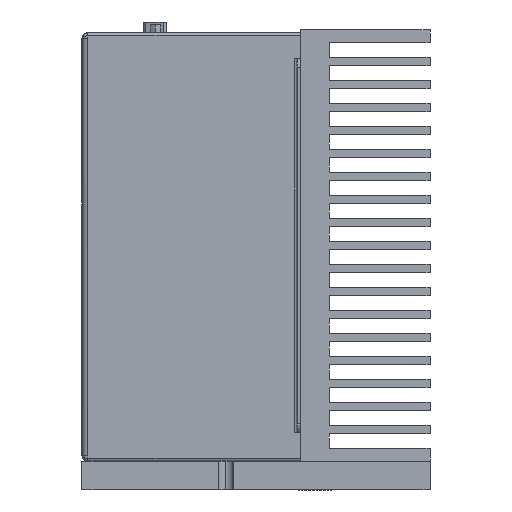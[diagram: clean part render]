
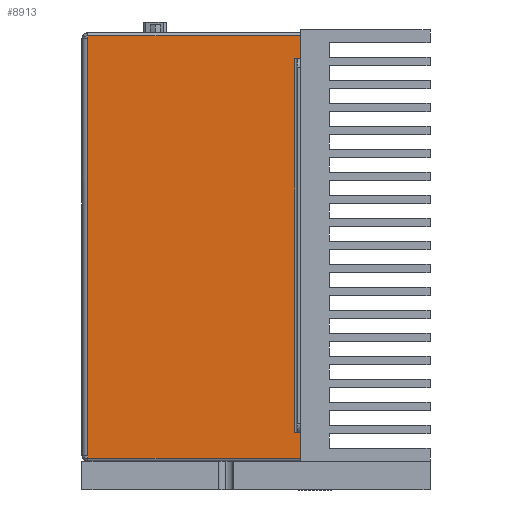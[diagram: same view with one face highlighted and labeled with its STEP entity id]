
A CAD part, left-side view. The second image highlights one B-rep face of the part: STEP entity #8913.
In plain terms, the highlighted planar face has unit normal (-1, 0, 0).
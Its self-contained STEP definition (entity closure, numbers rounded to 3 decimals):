
#729 = LINE ( 'NONE', #52767, #35011 ) ;
#755 = VERTEX_POINT ( 'NONE', #59858 ) ;
#823 = DIRECTION ( 'NONE',  ( 0., 0., -1. ) ) ;
#841 = ORIENTED_EDGE ( 'NONE', *, *, #39740, .F. ) ;
#950 = EDGE_CURVE ( 'NONE', #29595, #43330, #26371, .T. ) ;
#1066 = LINE ( 'NONE', #19080, #45404 ) ;
#1330 = CARTESIAN_POINT ( 'NONE',  ( -106.2, -76., -65. ) ) ;
#2018 = CARTESIAN_POINT ( 'NONE',  ( -106.2, -2., 72.501 ) ) ;
#2239 = ORIENTED_EDGE ( 'NONE', *, *, #23978, .F. ) ;
#3520 = EDGE_CURVE ( 'NONE', #11306, #41475, #3834, .T. ) ;
#3834 = LINE ( 'NONE', #44832, #56989 ) ;
#3872 = VERTEX_POINT ( 'NONE', #38018 ) ;
#4722 = VECTOR ( 'NONE', #22728, 1000. ) ;
#7450 = EDGE_CURVE ( 'NONE', #3872, #29595, #40467, .T. ) ;
#8183 = DIRECTION ( 'NONE',  ( 0., 1., 0. ) ) ;
#8913 = ADVANCED_FACE ( 'NONE', ( #60096 ), #11138, .F. ) ;
#9005 = CARTESIAN_POINT ( 'NONE',  ( -106.2, -75.833, -65. ) ) ;
#9162 = CARTESIAN_POINT ( 'NONE',  ( -106.2, -2., 72.043 ) ) ;
#10452 = ORIENTED_EDGE ( 'NONE', *, *, #28509, .F. ) ;
#10742 = EDGE_CURVE ( 'NONE', #755, #55673, #46896, .T. ) ;
#11138 = PLANE ( 'NONE',  #50887 ) ;
#11306 = VERTEX_POINT ( 'NONE', #12689 ) ;
#11657 = EDGE_LOOP ( 'NONE', ( #15707, #23926, #50171, #19336, #21403, #2239, #37776, #50858, #35038, #841, #18905, #10452 ) ) ;
#12205 = DIRECTION ( 'NONE',  ( 0., 0., 1. ) ) ;
#12569 = CARTESIAN_POINT ( 'NONE',  ( -106.2, -76., 73.75 ) ) ;
#12689 = CARTESIAN_POINT ( 'NONE',  ( -106.2, -2., 72.95 ) ) ;
#13056 = VECTOR ( 'NONE', #21250, 1000. ) ;
#14380 = DIRECTION ( 'NONE',  ( 0., 0., 1. ) ) ;
#15707 = ORIENTED_EDGE ( 'NONE', *, *, #3520, .F. ) ;
#16442 = LINE ( 'NONE', #43283, #28829 ) ;
#17030 = LINE ( 'NONE', #2018, #49784 ) ;
#18539 = VERTEX_POINT ( 'NONE', #9005 ) ;
#18905 = ORIENTED_EDGE ( 'NONE', *, *, #60001, .F. ) ;
#19080 = CARTESIAN_POINT ( 'NONE',  ( -106.2, -2., 0. ) ) ;
#19336 = ORIENTED_EDGE ( 'NONE', *, *, #950, .F. ) ;
#20312 = CARTESIAN_POINT ( 'NONE',  ( -106.2, 0., 0. ) ) ;
#20895 = EDGE_CURVE ( 'NONE', #43330, #47185, #1066, .T. ) ;
#21250 = DIRECTION ( 'NONE',  ( 0., -1., 0. ) ) ;
#21403 = ORIENTED_EDGE ( 'NONE', *, *, #7450, .F. ) ;
#21846 = CARTESIAN_POINT ( 'NONE',  ( -106.2, -76., 65. ) ) ;
#22105 = LINE ( 'NONE', #44480, #27896 ) ;
#22728 = DIRECTION ( 'NONE',  ( 0., 1., 0. ) ) ;
#23079 = CARTESIAN_POINT ( 'NONE',  ( -106.2, -2., -73.043 ) ) ;
#23926 = ORIENTED_EDGE ( 'NONE', *, *, #35421, .F. ) ;
#23978 = EDGE_CURVE ( 'NONE', #41810, #3872, #26811, .T. ) ;
#26371 = LINE ( 'NONE', #44012, #54039 ) ;
#26496 = VECTOR ( 'NONE', #27216, 1000. ) ;
#26811 = LINE ( 'NONE', #12569, #48604 ) ;
#27216 = DIRECTION ( 'NONE',  ( 0., 0., -1. ) ) ;
#27896 = VECTOR ( 'NONE', #8183, 1000. ) ;
#28509 = EDGE_CURVE ( 'NONE', #41475, #44930, #47358, .T. ) ;
#28829 = VECTOR ( 'NONE', #30050, 1000. ) ;
#29595 = VERTEX_POINT ( 'NONE', #40799 ) ;
#29993 = VERTEX_POINT ( 'NONE', #58008 ) ;
#30050 = DIRECTION ( 'NONE',  ( 0., -1., 0. ) ) ;
#34980 = VECTOR ( 'NONE', #823, 1000. ) ;
#35011 = VECTOR ( 'NONE', #38954, 1000. ) ;
#35038 = ORIENTED_EDGE ( 'NONE', *, *, #10742, .F. ) ;
#35421 = EDGE_CURVE ( 'NONE', #47185, #11306, #17030, .T. ) ;
#36591 = DIRECTION ( 'NONE',  ( 0., 0., -1. ) ) ;
#37776 = ORIENTED_EDGE ( 'NONE', *, *, #47993, .F. ) ;
#37835 = LINE ( 'NONE', #58680, #13056 ) ;
#38018 = CARTESIAN_POINT ( 'NONE',  ( -106.2, -76., -73.95 ) ) ;
#38954 = DIRECTION ( 'NONE',  ( 0., 1., 0. ) ) ;
#39740 = EDGE_CURVE ( 'NONE', #29993, #755, #22105, .T. ) ;
#40467 = LINE ( 'NONE', #59747, #4722 ) ;
#40799 = CARTESIAN_POINT ( 'NONE',  ( -106.2, -2., -73.95 ) ) ;
#41475 = VERTEX_POINT ( 'NONE', #49238 ) ;
#41810 = VERTEX_POINT ( 'NONE', #1330 ) ;
#42658 = CARTESIAN_POINT ( 'NONE',  ( -106.2, -74., -65. ) ) ;
#43283 = CARTESIAN_POINT ( 'NONE',  ( -106.2, -74., -65. ) ) ;
#43330 = VERTEX_POINT ( 'NONE', #23079 ) ;
#43533 = DIRECTION ( 'NONE',  ( 0., 1., 0. ) ) ;
#44012 = CARTESIAN_POINT ( 'NONE',  ( -106.2, -2., -73.501 ) ) ;
#44221 = DIRECTION ( 'NONE',  ( 0., 0., 1. ) ) ;
#44480 = CARTESIAN_POINT ( 'NONE',  ( -106.2, 0., 65. ) ) ;
#44772 = EDGE_CURVE ( 'NONE', #55673, #18539, #37835, .T. ) ;
#44832 = CARTESIAN_POINT ( 'NONE',  ( -106.2, 0., 72.95 ) ) ;
#44930 = VERTEX_POINT ( 'NONE', #21846 ) ;
#45404 = VECTOR ( 'NONE', #14380, 1000. ) ;
#45762 = CARTESIAN_POINT ( 'NONE',  ( -106.2, -74., 0. ) ) ;
#46896 = LINE ( 'NONE', #45762, #26496 ) ;
#47185 = VERTEX_POINT ( 'NONE', #9162 ) ;
#47358 = LINE ( 'NONE', #56015, #34980 ) ;
#47993 = EDGE_CURVE ( 'NONE', #18539, #41810, #16442, .T. ) ;
#48604 = VECTOR ( 'NONE', #36591, 1000. ) ;
#49238 = CARTESIAN_POINT ( 'NONE',  ( -106.2, -76., 72.95 ) ) ;
#49480 = DIRECTION ( 'NONE',  ( 0., -1., 0. ) ) ;
#49784 = VECTOR ( 'NONE', #12205, 1000. ) ;
#50171 = ORIENTED_EDGE ( 'NONE', *, *, #20895, .F. ) ;
#50858 = ORIENTED_EDGE ( 'NONE', *, *, #44772, .F. ) ;
#50887 = AXIS2_PLACEMENT_3D ( 'NONE', #20312, #57531, #43533 ) ;
#52767 = CARTESIAN_POINT ( 'NONE',  ( -106.2, -76., 65. ) ) ;
#54039 = VECTOR ( 'NONE', #44221, 1000. ) ;
#55673 = VERTEX_POINT ( 'NONE', #42658 ) ;
#56015 = CARTESIAN_POINT ( 'NONE',  ( -106.2, -76., 73.75 ) ) ;
#56989 = VECTOR ( 'NONE', #49480, 1000. ) ;
#57531 = DIRECTION ( 'NONE',  ( 1., 0., 0. ) ) ;
#58008 = CARTESIAN_POINT ( 'NONE',  ( -106.2, -75.833, 65. ) ) ;
#58680 = CARTESIAN_POINT ( 'NONE',  ( -106.2, 0., -65. ) ) ;
#59747 = CARTESIAN_POINT ( 'NONE',  ( -106.2, 0., -73.95 ) ) ;
#59858 = CARTESIAN_POINT ( 'NONE',  ( -106.2, -74., 65. ) ) ;
#60001 = EDGE_CURVE ( 'NONE', #44930, #29993, #729, .T. ) ;
#60096 = FACE_OUTER_BOUND ( 'NONE', #11657, .T. ) ;
